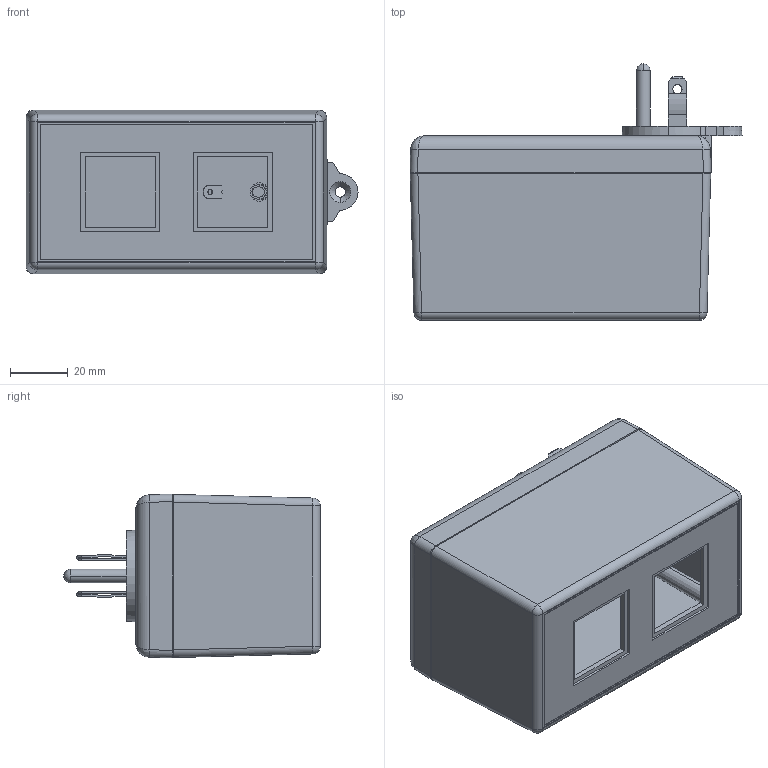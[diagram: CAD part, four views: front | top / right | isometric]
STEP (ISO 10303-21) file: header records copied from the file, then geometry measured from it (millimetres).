
FILE_DESCRIPTION (( 'STEP AP214' ), '1' );
FILE_NAME ('PM2425T23XWT.STEP', '2010-07-15T14:21:50', ( '' ), ( '' ), 'SwSTEP 2.0', 'SolidWorks 2010', '' );
FILE_SCHEMA (( 'AUTOMOTIVE_DESIGN' ));
Length unit declared in the file: inch
Products named in the file (10): TS-2420B AND PM2420_PM2420T2; B2405 ASS''Y_B24053XWT; MPB2405_MPB24053WT; GND-PIN; BLADES; WELD DISC-PS-BK; GND-TAB; SCREWS-HL1-BR; B2405-PCB; PM2425T23XWT
Assembly tree (13 placements, depth 3):
  PM2425T23XWT
    B2405-PCB
    SCREWS-HL1-BR  x4
    TS-2420B AND PM2420_PM2420T2
    B2405 ASS''Y_B24053XWT
      GND-TAB
      MPB2405_MPB24053WT
      WELD DISC-PS-BK
      BLADES  x2
      GND-PIN
Bounding box: 115.34 x 89.03 x 56.95 mm (x, y, z)
Volume: 86672.4 mm3; surface area: 81556 mm2
Topology: 12 solids, 12 shells, 970 faces, 2691 edges, 1753 vertices
Faces by surface type: cylinder 520, plane 314, cone 82, bspline 28, sphere 14, torus 12
Entity records: 21158 total; most frequent: CARTESIAN_POINT 6640, ORIENTED_EDGE 3092, DIRECTION 2832, EDGE_CURVE 1546, AXIS2_PLACEMENT_3D 1006, VERTEX_POINT 1003, LINE 820, VECTOR 820
